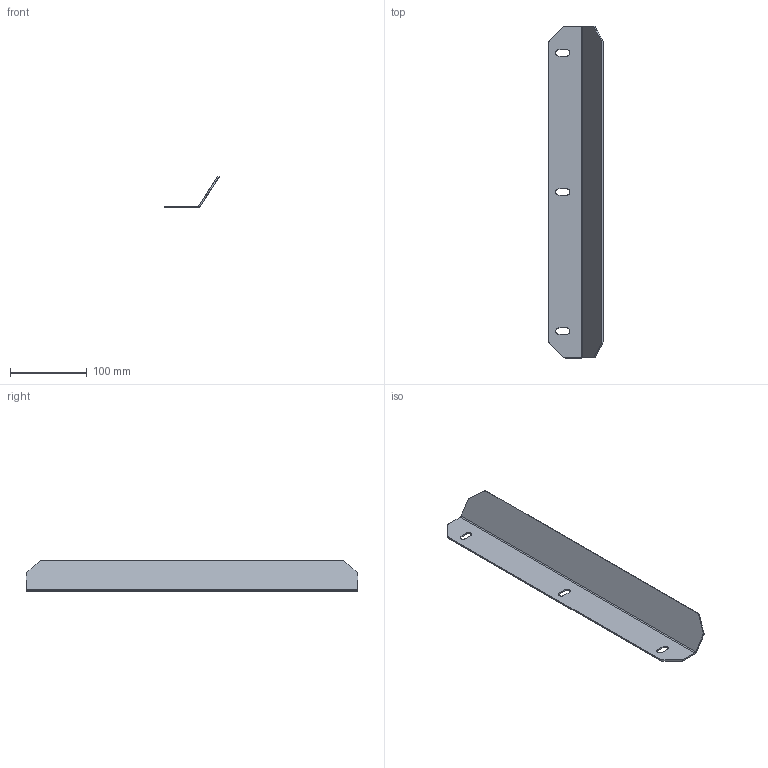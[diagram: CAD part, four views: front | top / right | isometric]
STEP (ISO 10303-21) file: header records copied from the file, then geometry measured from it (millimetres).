
FILE_DESCRIPTION(/* description */ (''),/* implementation_level */ '2;1');
FILE_NAME(/* name */ 'C:\Users\jaaku\OneDrive\Pulpit\Projekty\CNCASE\Ergwind MFG4025P\Prod\Door_stop.stp',/* time_stamp */ '2021-12-02T22:48:18+01:00',/* author */ ('jaaku'),/* organization */ (''),/* preprocessor_version */ 'ST-DEVELOPER v18.1',/* originating_system */ 'Autodesk Inventor 2022',/* authorisation */ '');
FILE_SCHEMA (('AUTOMOTIVE_DESIGN { 1 0 10303 214 3 1 1 }'));
Length unit declared in the file: millimetre
Products named in the file (1): Door_stop
Bounding box: 70.4 x 432 x 41.2 mm (x, y, z)
Volume: 76172 mm3; surface area: 78442.6 mm2
Topology: 1 solids, 1 shells, 38 faces, 112 edges, 91 vertices
Faces by surface type: plane 22, cylinder 16
Entity records: 1313 total; most frequent: CARTESIAN_POINT 232, DIRECTION 214, ORIENTED_EDGE 200, EDGE_CURVE 100, AXIS2_PLACEMENT_3D 73, LINE 68, VECTOR 68, VERTEX_POINT 64
